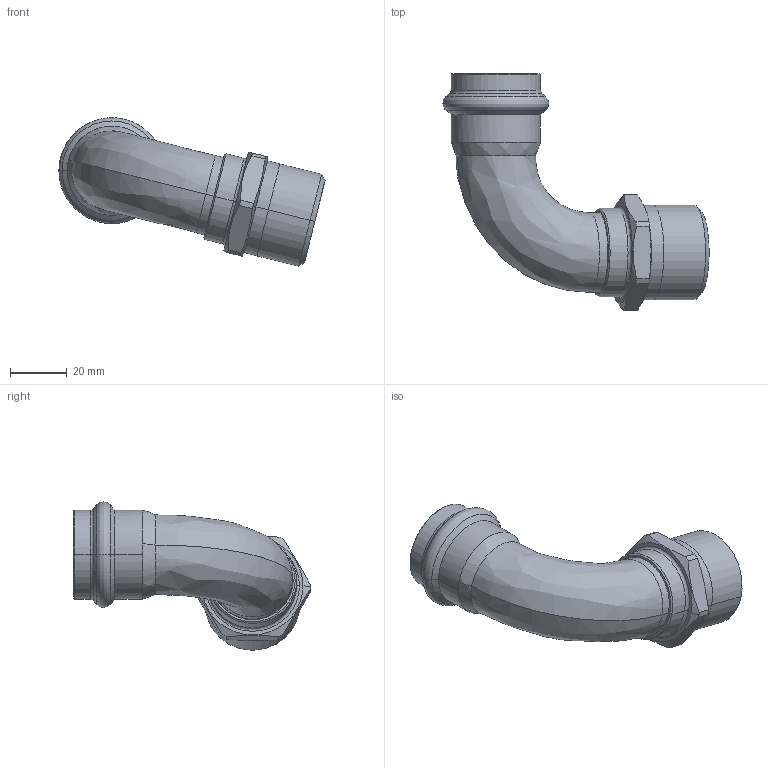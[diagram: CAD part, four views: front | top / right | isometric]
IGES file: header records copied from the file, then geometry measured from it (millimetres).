
Start section: Elysium IGES Interface
Global section: file name: C:\3d modellen sudo\C-Pr VP\SP8092GV\8092GVW281.igs; native system: CoCreate Modeling 17.00A  17-Jun-2010; preprocessor: CoCreate IGES_3D V2.2; author: Unknown; organization: Unknown; date: 20130305.112516; units: millimetre
Bounding box: 93.52 x 82.99 x 52.14 mm (x, y, z)
Volume: 25459 mm3; surface area: 23373.9 mm2
Topology: 1 solids, 1 shells, 85 faces, 190 edges, 112 vertices
Faces by surface type: bspline 85
